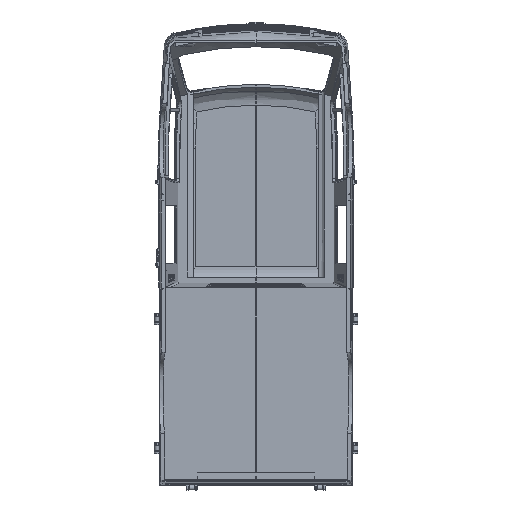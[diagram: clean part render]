
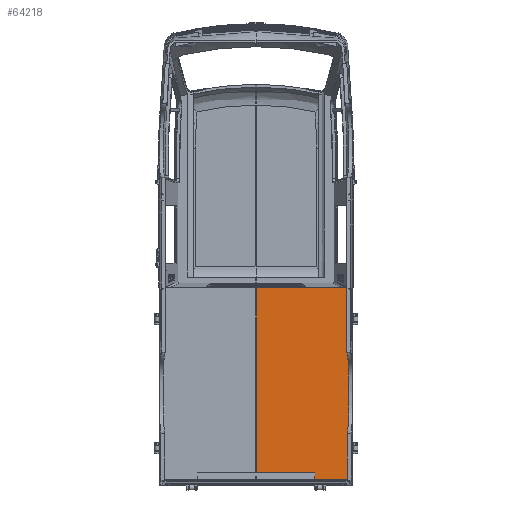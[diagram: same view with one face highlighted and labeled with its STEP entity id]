
A CAD part, front view. The second image highlights one B-rep face of the part: STEP entity #64218.
In plain terms, the highlighted planar face has unit normal (0, -1, 0).
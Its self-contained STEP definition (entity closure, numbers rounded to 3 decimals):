
#1283=ELLIPSE('',#69091,2.003,2.);
#6467=FACE_OUTER_BOUND('',#10444,.T.);
#10444=EDGE_LOOP('',(#48747,#48748,#48749,#48750,#48751));
#14582=LINE('',#107680,#19708);
#14591=LINE('',#107703,#19717);
#15056=LINE('',#109828,#20182);
#15057=LINE('',#109831,#20183);
#19708=VECTOR('',#78638,10.);
#19717=VECTOR('',#78659,10.);
#20182=VECTOR('',#80084,10.);
#20183=VECTOR('',#80087,10.);
#27467=VERTEX_POINT('',#107677);
#27468=VERTEX_POINT('',#107679);
#27476=VERTEX_POINT('',#107702);
#27907=VERTEX_POINT('',#109827);
#27908=VERTEX_POINT('',#109829);
#34637=EDGE_CURVE('',#27467,#27468,#14582,.F.);
#34649=EDGE_CURVE('',#27468,#27476,#14591,.T.);
#35360=EDGE_CURVE('',#27907,#27467,#15056,.F.);
#35361=EDGE_CURVE('',#27907,#27908,#1283,.F.);
#35362=EDGE_CURVE('',#27908,#27476,#15057,.T.);
#48747=ORIENTED_EDGE('',*,*,#35360,.F.);
#48748=ORIENTED_EDGE('',*,*,#35361,.T.);
#48749=ORIENTED_EDGE('',*,*,#35362,.T.);
#48750=ORIENTED_EDGE('',*,*,#34649,.F.);
#48751=ORIENTED_EDGE('',*,*,#34637,.F.);
#61883=PLANE('',#69090);
#64218=ADVANCED_FACE('',(#6467),#61883,.T.);
#69090=AXIS2_PLACEMENT_3D('',#109826,#80082,#80083);
#69091=AXIS2_PLACEMENT_3D('',#109830,#80085,#80086);
#78638=DIRECTION('',(1.,0.,0.));
#78659=DIRECTION('',(0.,0.,1.));
#80082=DIRECTION('center_axis',(0.,-1.,0.));
#80083=DIRECTION('ref_axis',(0.,0.,-1.));
#80084=DIRECTION('',(0.,0.,1.));
#80085=DIRECTION('center_axis',(0.,-1.,0.));
#80086=DIRECTION('ref_axis',(1.,0.,0.));
#80087=DIRECTION('',(-1.,0.,0.));
#107677=CARTESIAN_POINT('',(115.037,75.648,-263.362));
#107679=CARTESIAN_POINT('',(0.026,75.648,-263.362));
#107680=CARTESIAN_POINT('',(29.873,75.648,-263.362));
#107702=CARTESIAN_POINT('',(0.003,75.648,-25.169));
#107703=CARTESIAN_POINT('',(0.009,75.648,-88.123));
#109826=CARTESIAN_POINT('Origin',(59.719,75.648,-148.072));
#109827=CARTESIAN_POINT('',(115.037,75.648,-23.15));
#109828=CARTESIAN_POINT('',(115.037,75.648,-208.033));
#109829=CARTESIAN_POINT('',(113.035,75.648,-25.15));
#109830=CARTESIAN_POINT('Origin',(113.034,75.648,-23.15));
#109831=CARTESIAN_POINT('',(89.567,75.648,-25.154));
